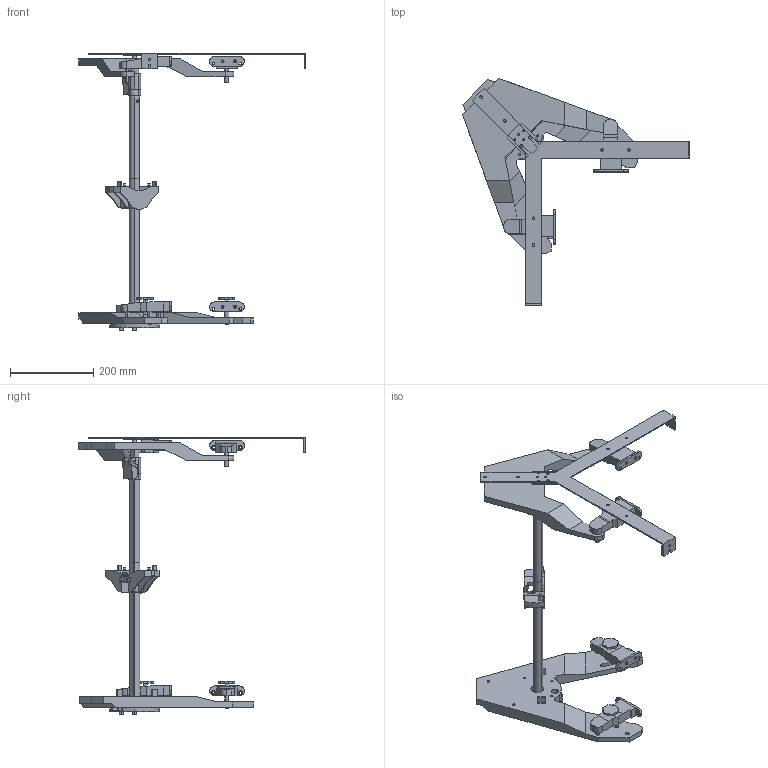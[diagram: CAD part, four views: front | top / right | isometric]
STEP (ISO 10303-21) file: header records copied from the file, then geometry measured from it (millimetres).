
FILE_DESCRIPTION(('STEP AP242'),'1');
FILE_NAME('OPO_53.184.51.stp','2026-01-27T04:08:42',(' '),(' '),'Spatial InterOp 3D',' ',' ');
FILE_SCHEMA(('AP242_MANAGED_MODEL_BASED_3D_ENGINEERING_MIM_LF {1 0 10303 442 1 1 4}'));
Length unit declared in the file: millimetre
Products named in the file (1): 1
Bounding box: 546.02 x 546.71 x 668 mm (x, y, z)
Volume: 2975726.7 mm3; surface area: 673548 mm2
Topology: 17 solids, 17 shells, 818 faces, 2249 edges, 1497 vertices
Faces by surface type: plane 460, cylinder 326, cone 32
Entity records: 34504 total; most frequent: CARTESIAN_POINT 6207, DIRECTION 4584, ORIENTED_EDGE 4498, EDGE_CURVE 2249, AXIS2_PLACEMENT_3D 1544, VERTEX_POINT 1497, LINE 1496, VECTOR 1496
